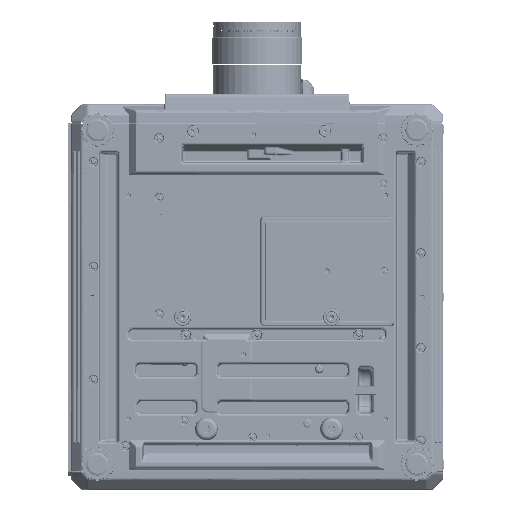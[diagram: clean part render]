
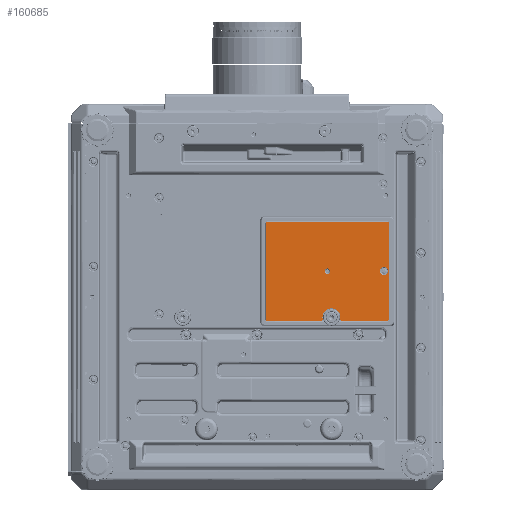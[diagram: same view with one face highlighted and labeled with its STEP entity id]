
A CAD part, front view. The second image highlights one B-rep face of the part: STEP entity #160685.
In plain terms, the highlighted planar face has unit normal (0, -1, 0).
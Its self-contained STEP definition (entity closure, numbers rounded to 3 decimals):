
#84511=ELLIPSE('',#354087,1.504,1.5);
#84512=ELLIPSE('',#354088,1.504,1.5);
#84513=ELLIPSE('',#354090,1.504,1.5);
#84514=ELLIPSE('',#354091,1.504,1.5);
#90217=PLANE('',#354092);
#114523=LINE('',#527760,#141068);
#114524=LINE('',#527765,#141069);
#114525=LINE('',#527769,#141070);
#114526=LINE('',#527813,#141071);
#114527=LINE('',#527817,#141072);
#141068=VECTOR('',#403482,1.);
#141069=VECTOR('',#403485,1.);
#141070=VECTOR('',#403488,1.);
#141071=VECTOR('',#403491,1.);
#141072=VECTOR('',#403494,1.);
#160685=ADVANCED_FACE('',(#173313,#173314,#173315),#90217,.F.);
#169747=B_SPLINE_CURVE_WITH_KNOTS('',3,(#527771,#527772,#527773,#527774,
#527775,#527776,#527777,#527778,#527779,#527780,#527781,#527782,#527783,
#527784,#527785,#527786,#527787,#527788,#527789),.UNSPECIFIED.,.F.,.F.,
(4,3,3,3,3,3,4),(0.,0.054,0.243,0.432,
0.621,0.811,1.),.UNSPECIFIED.);
#169748=B_SPLINE_CURVE_WITH_KNOTS('',3,(#527793,#527794,#527795,#527796,
#527797,#527798,#527799,#527800,#527801,#527802,#527803,#527804,#527805,
#527806,#527807,#527808,#527809,#527810,#527811),.UNSPECIFIED.,.F.,.F.,
(4,3,3,3,3,3,4),(0.,0.054,0.243,0.432,
0.621,0.811,1.),.UNSPECIFIED.);
#173313=FACE_BOUND('',#179865,.T.);
#173314=FACE_BOUND('',#179866,.T.);
#173315=FACE_BOUND('',#179867,.T.);
#179865=EDGE_LOOP('',(#213512));
#179866=EDGE_LOOP('',(#213513));
#179867=EDGE_LOOP('',(#213514,#213515,#213516,#213517,#213518,#213519,#213520,
#213521,#213522,#213523,#213524,#213525));
#213512=ORIENTED_EDGE('',*,*,#306514,.T.);
#213513=ORIENTED_EDGE('',*,*,#306515,.T.);
#213514=ORIENTED_EDGE('',*,*,#306516,.T.);
#213515=ORIENTED_EDGE('',*,*,#306517,.T.);
#213516=ORIENTED_EDGE('',*,*,#306518,.T.);
#213517=ORIENTED_EDGE('',*,*,#306519,.T.);
#213518=ORIENTED_EDGE('',*,*,#306520,.T.);
#213519=ORIENTED_EDGE('',*,*,#306521,.T.);
#213520=ORIENTED_EDGE('',*,*,#306522,.T.);
#213521=ORIENTED_EDGE('',*,*,#306523,.T.);
#213522=ORIENTED_EDGE('',*,*,#306524,.T.);
#213523=ORIENTED_EDGE('',*,*,#306525,.T.);
#213524=ORIENTED_EDGE('',*,*,#306526,.T.);
#213525=ORIENTED_EDGE('',*,*,#306527,.T.);
#263572=VERTEX_POINT('',#527756);
#263573=VERTEX_POINT('',#527759);
#263574=VERTEX_POINT('',#527761);
#263575=VERTEX_POINT('',#527762);
#263576=VERTEX_POINT('',#527764);
#263577=VERTEX_POINT('',#527766);
#263578=VERTEX_POINT('',#527768);
#263579=VERTEX_POINT('',#527770);
#263580=VERTEX_POINT('',#527790);
#263581=VERTEX_POINT('',#527792);
#263582=VERTEX_POINT('',#527812);
#263583=VERTEX_POINT('',#527814);
#263584=VERTEX_POINT('',#527816);
#263585=VERTEX_POINT('',#527818);
#306514=EDGE_CURVE('',#263572,#263572,#337560,.T.);
#306515=EDGE_CURVE('',#263573,#263573,#337561,.T.);
#306516=EDGE_CURVE('',#263574,#263575,#114523,.T.);
#306517=EDGE_CURVE('',#263575,#263576,#84511,.T.);
#306518=EDGE_CURVE('',#263576,#263577,#114524,.T.);
#306519=EDGE_CURVE('',#263577,#263578,#84512,.T.);
#306520=EDGE_CURVE('',#263578,#263579,#114525,.T.);
#306521=EDGE_CURVE('',#263579,#263580,#169747,.T.);
#306522=EDGE_CURVE('',#263580,#263581,#337562,.T.);
#306523=EDGE_CURVE('',#263581,#263582,#169748,.T.);
#306524=EDGE_CURVE('',#263582,#263583,#114526,.T.);
#306525=EDGE_CURVE('',#263583,#263584,#84513,.T.);
#306526=EDGE_CURVE('',#263584,#263585,#114527,.T.);
#306527=EDGE_CURVE('',#263585,#263574,#84514,.T.);
#337560=CIRCLE('',#354084,4.);
#337561=CIRCLE('',#354086,6.125);
#337562=CIRCLE('',#354089,13.358);
#354084=AXIS2_PLACEMENT_3D('',#527755,#403476,#403477);
#354086=AXIS2_PLACEMENT_3D('',#527758,#403480,#403481);
#354087=AXIS2_PLACEMENT_3D('',#527763,#403483,#403484);
#354088=AXIS2_PLACEMENT_3D('',#527767,#403486,#403487);
#354089=AXIS2_PLACEMENT_3D('',#527791,#403489,#403490);
#354090=AXIS2_PLACEMENT_3D('',#527815,#403492,#403493);
#354091=AXIS2_PLACEMENT_3D('',#527819,#403495,#403496);
#354092=AXIS2_PLACEMENT_3D('',#527820,#403497,#403498);
#403476=DIRECTION('',(0.,1.,0.));
#403477=DIRECTION('',(0.,0.,1.));
#403480=DIRECTION('',(0.,1.,0.));
#403481=DIRECTION('',(0.,0.,1.));
#403482=DIRECTION('',(-1.,0.,0.));
#403483=DIRECTION('',(0.,-1.,0.));
#403484=DIRECTION('',(0.707,0.,-0.707));
#403485=DIRECTION('',(0.,0.,-1.));
#403486=DIRECTION('',(0.,-1.,0.));
#403487=DIRECTION('',(-0.707,0.,-0.707));
#403488=DIRECTION('',(1.,0.,0.));
#403489=DIRECTION('',(0.,1.,0.));
#403490=DIRECTION('',(0.,0.,1.));
#403491=DIRECTION('',(1.,0.,0.));
#403492=DIRECTION('',(0.,-1.,0.));
#403493=DIRECTION('',(-0.707,0.,0.707));
#403494=DIRECTION('',(0.,0.,1.));
#403495=DIRECTION('',(0.,-1.,0.));
#403496=DIRECTION('',(-0.707,0.,-0.707));
#403497=DIRECTION('',(0.,1.,0.));
#403498=DIRECTION('',(0.,0.,1.));
#527755=CARTESIAN_POINT('',(103.8,-116.5,-1.5));
#527756=CARTESIAN_POINT('',(103.8,-116.5,2.5));
#527758=CARTESIAN_POINT('',(187.8,-116.5,-1.5));
#527759=CARTESIAN_POINT('',(187.8,-116.5,4.625));
#527760=CARTESIAN_POINT('',(110.,-116.5,71.642));
#527761=CARTESIAN_POINT('',(193.644,-116.5,71.642));
#527762=CARTESIAN_POINT('',(14.356,-116.5,71.642));
#527763=CARTESIAN_POINT('',(14.36,-116.5,70.14));
#527764=CARTESIAN_POINT('',(12.858,-116.5,70.144));
#527765=CARTESIAN_POINT('',(12.858,-116.5,-70.));
#527766=CARTESIAN_POINT('',(12.858,-116.5,-73.144));
#527767=CARTESIAN_POINT('',(14.36,-116.5,-73.14));
#527768=CARTESIAN_POINT('',(14.356,-116.5,-74.642));
#527769=CARTESIAN_POINT('',(110.,-116.5,-74.642));
#527770=CARTESIAN_POINT('',(95.481,-116.5,-74.642));
#527771=CARTESIAN_POINT('',(95.481,-116.5,-74.642));
#527772=CARTESIAN_POINT('',(95.529,-116.5,-74.642));
#527773=CARTESIAN_POINT('',(95.578,-116.5,-74.64));
#527774=CARTESIAN_POINT('',(95.627,-116.5,-74.635));
#527775=CARTESIAN_POINT('',(95.794,-116.5,-74.619));
#527776=CARTESIAN_POINT('',(95.96,-116.5,-74.574));
#527777=CARTESIAN_POINT('',(96.112,-116.5,-74.503));
#527778=CARTESIAN_POINT('',(96.264,-116.5,-74.433));
#527779=CARTESIAN_POINT('',(96.405,-116.5,-74.335));
#527780=CARTESIAN_POINT('',(96.525,-116.5,-74.219));
#527781=CARTESIAN_POINT('',(96.645,-116.5,-74.102));
#527782=CARTESIAN_POINT('',(96.747,-116.5,-73.963));
#527783=CARTESIAN_POINT('',(96.822,-116.5,-73.813));
#527784=CARTESIAN_POINT('',(96.897,-116.5,-73.662));
#527785=CARTESIAN_POINT('',(96.947,-116.5,-73.497));
#527786=CARTESIAN_POINT('',(96.967,-116.5,-73.33));
#527787=CARTESIAN_POINT('',(96.988,-116.5,-73.164));
#527788=CARTESIAN_POINT('',(96.98,-116.5,-72.991));
#527789=CARTESIAN_POINT('',(96.945,-116.5,-72.827));
#527790=CARTESIAN_POINT('',(96.945,-116.5,-72.827));
#527791=CARTESIAN_POINT('',(110.,-116.5,-70.));
#527792=CARTESIAN_POINT('',(123.055,-116.5,-72.827));
#527793=CARTESIAN_POINT('',(123.055,-116.5,-72.827));
#527794=CARTESIAN_POINT('',(123.045,-116.5,-72.875));
#527795=CARTESIAN_POINT('',(123.037,-116.5,-72.923));
#527796=CARTESIAN_POINT('',(123.031,-116.5,-72.972));
#527797=CARTESIAN_POINT('',(123.012,-116.5,-73.138));
#527798=CARTESIAN_POINT('',(123.021,-116.5,-73.31));
#527799=CARTESIAN_POINT('',(123.058,-116.5,-73.473));
#527800=CARTESIAN_POINT('',(123.094,-116.5,-73.637));
#527801=CARTESIAN_POINT('',(123.159,-116.5,-73.796));
#527802=CARTESIAN_POINT('',(123.248,-116.5,-73.938));
#527803=CARTESIAN_POINT('',(123.337,-116.5,-74.08));
#527804=CARTESIAN_POINT('',(123.451,-116.5,-74.209));
#527805=CARTESIAN_POINT('',(123.582,-116.5,-74.313));
#527806=CARTESIAN_POINT('',(123.713,-116.5,-74.418));
#527807=CARTESIAN_POINT('',(123.864,-116.5,-74.502));
#527808=CARTESIAN_POINT('',(124.023,-116.5,-74.558));
#527809=CARTESIAN_POINT('',(124.181,-116.5,-74.613));
#527810=CARTESIAN_POINT('',(124.351,-116.5,-74.642));
#527811=CARTESIAN_POINT('',(124.519,-116.5,-74.642));
#527812=CARTESIAN_POINT('',(124.519,-116.5,-74.642));
#527813=CARTESIAN_POINT('',(110.,-116.5,-74.642));
#527814=CARTESIAN_POINT('',(193.644,-116.5,-74.642));
#527815=CARTESIAN_POINT('',(193.64,-116.5,-73.14));
#527816=CARTESIAN_POINT('',(195.142,-116.5,-73.144));
#527817=CARTESIAN_POINT('',(195.142,-116.5,-70.));
#527818=CARTESIAN_POINT('',(195.142,-116.5,70.144));
#527819=CARTESIAN_POINT('',(193.64,-116.5,70.14));
#527820=CARTESIAN_POINT('',(110.,-116.5,-70.));
